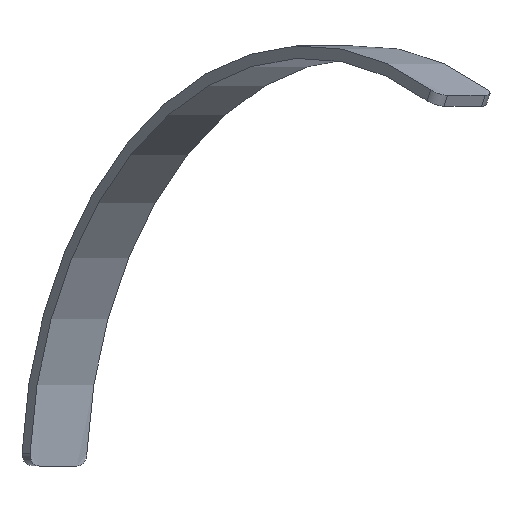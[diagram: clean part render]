
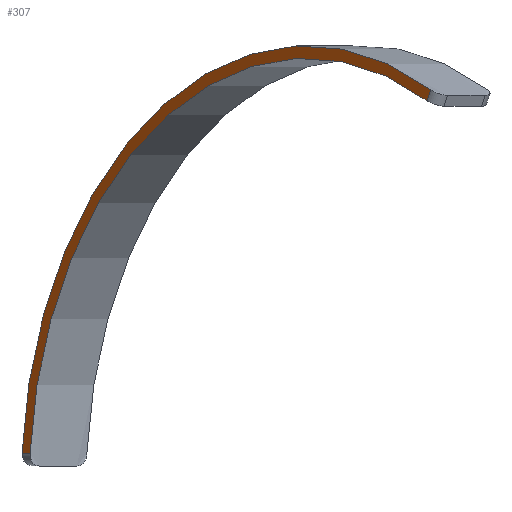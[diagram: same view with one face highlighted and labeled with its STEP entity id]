
A CAD part, front view. The second image highlights one B-rep face of the part: STEP entity #307.
In plain terms, the highlighted planar face has unit normal (-0.76, -0.649, 0).
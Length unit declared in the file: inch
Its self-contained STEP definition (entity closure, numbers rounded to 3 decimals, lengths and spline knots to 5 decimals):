
#14 = CARTESIAN_POINT ( 'NONE',  ( 75.4123, -92.91577, 0. ) ) ;
#78 = CIRCLE ( 'NONE', #393, 34.285 ) ;
#86 = VERTEX_POINT ( 'NONE', #341 ) ;
#94 = EDGE_LOOP ( 'NONE', ( #547, #550, #175, #428 ) ) ;
#100 = CIRCLE ( 'NONE', #405, 35.285 ) ;
#109 = CARTESIAN_POINT ( 'NONE',  ( 52.55608, -66.15457, 2.54217 ) ) ;
#126 = DIRECTION ( 'NONE',  ( 0.649, -0.76, -0.044 ) ) ;
#134 = DIRECTION ( 'NONE',  ( 0.649, -0.76, 0. ) ) ;
#147 = CARTESIAN_POINT ( 'NONE',  ( 85.4106, -104.62227, 31.74938 ) ) ;
#159 = VECTOR ( 'NONE', #126, 39.37008 ) ;
#175 = ORIENTED_EDGE ( 'NONE', *, *, #400, .F. ) ;
#178 = VECTOR ( 'NONE', #281, 39.37008 ) ;
#192 = DIRECTION ( 'NONE',  ( -0.649, 0.76, 0. ) ) ;
#235 = DIRECTION ( 'NONE',  ( 0.649, -0.76, 0. ) ) ;
#264 = EDGE_CURVE ( 'NONE', #553, #509, #100, .T. ) ;
#275 = PLANE ( 'NONE',  #301 ) ;
#281 = DIRECTION ( 'NONE',  ( 0.3, -0.351, 0.887 ) ) ;
#283 = CARTESIAN_POINT ( 'NONE',  ( 74.8362, -92.24124, 0.46163 ) ) ;
#285 = LINE ( 'NONE', #343, #159 ) ;
#301 = AXIS2_PLACEMENT_3D ( 'NONE', #14, #408, #192 ) ;
#307 = ADVANCED_FACE ( 'NONE', ( #403 ), #275, .F. ) ;
#324 = CARTESIAN_POINT ( 'NONE',  ( 85.11067, -104.2711, 30.86194 ) ) ;
#341 = CARTESIAN_POINT ( 'NONE',  ( 53.20518, -66.91457, 2.4984 ) ) ;
#343 = CARTESIAN_POINT ( 'NONE',  ( 75.44072, -92.94904, 0.99904 ) ) ;
#360 = CARTESIAN_POINT ( 'NONE',  ( 75.4123, -92.91577, 0. ) ) ;
#367 = EDGE_CURVE ( 'NONE', #509, #86, #285, .T. ) ;
#373 = EDGE_CURVE ( 'NONE', #536, #553, #466, .T. ) ;
#393 = AXIS2_PLACEMENT_3D ( 'NONE', #510, #517, #134 ) ;
#400 = EDGE_CURVE ( 'NONE', #536, #86, #78, .T. ) ;
#403 = FACE_OUTER_BOUND ( 'NONE', #94, .T. ) ;
#405 = AXIS2_PLACEMENT_3D ( 'NONE', #360, #535, #235 ) ;
#408 = DIRECTION ( 'NONE',  ( 0.76, 0.649, 0. ) ) ;
#428 = ORIENTED_EDGE ( 'NONE', *, *, #373, .T. ) ;
#466 = LINE ( 'NONE', #283, #178 ) ;
#509 = VERTEX_POINT ( 'NONE', #109 ) ;
#510 = CARTESIAN_POINT ( 'NONE',  ( 75.4123, -92.91577, 0. ) ) ;
#517 = DIRECTION ( 'NONE',  ( -0.76, -0.649, 0. ) ) ;
#535 = DIRECTION ( 'NONE',  ( -0.76, -0.649, 0. ) ) ;
#536 = VERTEX_POINT ( 'NONE', #324 ) ;
#547 = ORIENTED_EDGE ( 'NONE', *, *, #264, .T. ) ;
#550 = ORIENTED_EDGE ( 'NONE', *, *, #367, .T. ) ;
#553 = VERTEX_POINT ( 'NONE', #147 ) ;
